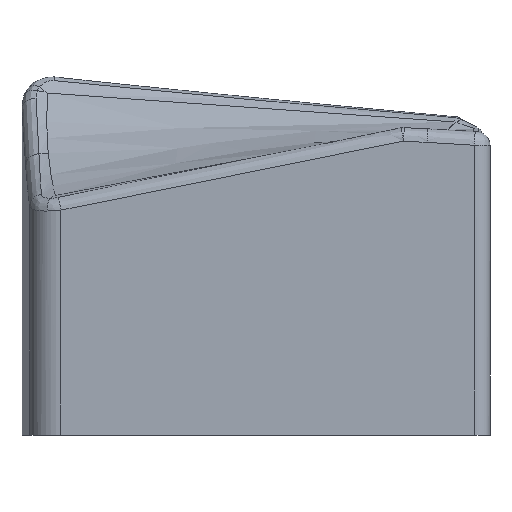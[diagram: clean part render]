
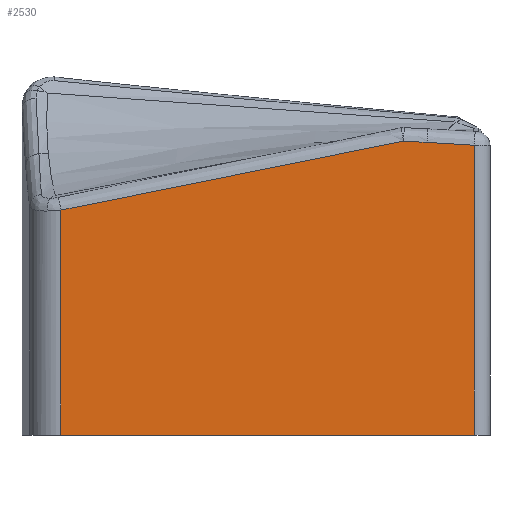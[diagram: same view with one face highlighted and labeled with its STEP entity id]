
A CAD part, front view. The second image highlights one B-rep face of the part: STEP entity #2530.
In plain terms, the highlighted planar face has unit normal (0, -1, 0).
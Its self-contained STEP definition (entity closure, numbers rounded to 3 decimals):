
#2411=AXIS2_PLACEMENT_3D('Plane Axis2P3D',#2408,#2409,#2410) ;
#1056=CARTESIAN_POINT('Vertex',(-18.348,-23.,-80.)) ;
#1059=CARTESIAN_POINT('Line Origine',(-70.981,-23.,-80.)) ;
#1063=CARTESIAN_POINT('Vertex',(-123.614,-23.,-80.)) ;
#1971=CARTESIAN_POINT('Line Origine',(-123.614,-23.,-26.5)) ;
#1975=CARTESIAN_POINT('Vertex',(-123.614,-23.,-22.698)) ;
#2024=CARTESIAN_POINT('Line Origine',(-18.348,-23.,-26.5)) ;
#2028=CARTESIAN_POINT('Vertex',(-18.348,-23.,-6.173)) ;
#2408=CARTESIAN_POINT('Axis2P3D Location',(-18.348,-23.,0.)) ;
#2414=CARTESIAN_POINT('Control Point',(-18.348,-23.,-6.173)) ;
#2415=CARTESIAN_POINT('Control Point',(-18.803,-23.,-6.145)) ;
#2416=CARTESIAN_POINT('Control Point',(-19.258,-23.,-6.117)) ;
#2417=CARTESIAN_POINT('Control Point',(-19.669,-23.,-6.093)) ;
#2418=CARTESIAN_POINT('Control Point',(-20.57,-23.,-6.038)) ;
#2419=CARTESIAN_POINT('Control Point',(-21.469,-23.,-5.984)) ;
#2420=CARTESIAN_POINT('Control Point',(-21.914,-23.,-5.957)) ;
#2421=CARTESIAN_POINT('Control Point',(-22.815,-23.,-5.903)) ;
#2422=CARTESIAN_POINT('Control Point',(-23.715,-23.,-5.85)) ;
#2423=CARTESIAN_POINT('Control Point',(-24.101,-23.,-5.827)) ;
#2424=CARTESIAN_POINT('Control Point',(-25.446,-23.,-5.746)) ;
#2425=CARTESIAN_POINT('Control Point',(-26.794,-23.,-5.667)) ;
#2426=CARTESIAN_POINT('Control Point',(-27.681,-23.,-5.614)) ;
#2427=CARTESIAN_POINT('Control Point',(-28.763,-23.,-5.55)) ;
#2428=CARTESIAN_POINT('Control Point',(-29.846,-23.,-5.486)) ;
#2429=CARTESIAN_POINT('Control Point',(-30.031,-23.,-5.475)) ;
#2430=CARTESIAN_POINT('Control Point',(-30.207,-23.,-5.464)) ;
#2431=CARTESIAN_POINT('Control Point',(-30.379,-23.,-5.454)) ;
#2432=CARTESIAN_POINT('Vertex',(-30.379,-23.,-5.454)) ;
#2436=CARTESIAN_POINT('Control Point',(-30.379,-23.,-5.454)) ;
#2437=CARTESIAN_POINT('Control Point',(-30.887,-23.,-5.424)) ;
#2438=CARTESIAN_POINT('Control Point',(-31.397,-23.,-5.394)) ;
#2439=CARTESIAN_POINT('Control Point',(-31.906,-23.,-5.363)) ;
#2440=CARTESIAN_POINT('Control Point',(-32.766,-23.,-5.312)) ;
#2441=CARTESIAN_POINT('Control Point',(-33.626,-23.,-5.26)) ;
#2442=CARTESIAN_POINT('Control Point',(-33.904,-23.,-5.244)) ;
#2443=CARTESIAN_POINT('Control Point',(-34.603,-23.,-5.203)) ;
#2444=CARTESIAN_POINT('Control Point',(-35.3,-23.,-5.162)) ;
#2445=CARTESIAN_POINT('Control Point',(-35.643,-23.,-5.143)) ;
#2446=CARTESIAN_POINT('Control Point',(-35.987,-23.,-5.124)) ;
#2447=CARTESIAN_POINT('Control Point',(-36.33,-23.,-5.105)) ;
#2448=CARTESIAN_POINT('Vertex',(-36.33,-23.,-5.105)) ;
#2452=CARTESIAN_POINT('Control Point',(-123.614,-23.,-22.698)) ;
#2453=CARTESIAN_POINT('Control Point',(-123.381,-23.,-22.652)) ;
#2454=CARTESIAN_POINT('Control Point',(-123.152,-23.,-22.606)) ;
#2455=CARTESIAN_POINT('Control Point',(-122.929,-23.,-22.563)) ;
#2456=CARTESIAN_POINT('Control Point',(-122.292,-23.,-22.437)) ;
#2457=CARTESIAN_POINT('Control Point',(-121.72,-23.,-22.324)) ;
#2458=CARTESIAN_POINT('Control Point',(-121.389,-23.,-22.259)) ;
#2459=CARTESIAN_POINT('Control Point',(-120.857,-23.,-22.154)) ;
#2460=CARTESIAN_POINT('Control Point',(-120.286,-23.,-22.041)) ;
#2461=CARTESIAN_POINT('Control Point',(-120.074,-23.,-21.999)) ;
#2462=CARTESIAN_POINT('Control Point',(-119.678,-23.,-21.921)) ;
#2463=CARTESIAN_POINT('Control Point',(-119.253,-23.,-21.837)) ;
#2464=CARTESIAN_POINT('Control Point',(-119.06,-23.,-21.799)) ;
#2465=CARTESIAN_POINT('Control Point',(-118.66,-23.,-21.719)) ;
#2466=CARTESIAN_POINT('Control Point',(-118.246,-23.,-21.638)) ;
#2467=CARTESIAN_POINT('Control Point',(-118.065,-23.,-21.602)) ;
#2468=CARTESIAN_POINT('Control Point',(-116.6,-23.,-21.312)) ;
#2469=CARTESIAN_POINT('Control Point',(-115.145,-23.,-21.024)) ;
#2470=CARTESIAN_POINT('Control Point',(-113.906,-23.,-20.778)) ;
#2471=CARTESIAN_POINT('Control Point',(-109.066,-23.,-19.818)) ;
#2472=CARTESIAN_POINT('Control Point',(-104.226,-23.,-18.854)) ;
#2473=CARTESIAN_POINT('Control Point',(-100.518,-23.,-18.114)) ;
#2474=CARTESIAN_POINT('Control Point',(-95.974,-23.,-17.204)) ;
#2475=CARTESIAN_POINT('Control Point',(-91.481,-23.,-16.303)) ;
#2476=CARTESIAN_POINT('Control Point',(-90.748,-23.,-16.156)) ;
#2477=CARTESIAN_POINT('Control Point',(-87.359,-23.,-15.475)) ;
#2478=CARTESIAN_POINT('Control Point',(-83.997,-23.,-14.798)) ;
#2479=CARTESIAN_POINT('Control Point',(-81.485,-23.,-14.292)) ;
#2480=CARTESIAN_POINT('Control Point',(-78.135,-23.,-13.616)) ;
#2481=CARTESIAN_POINT('Control Point',(-74.793,-23.,-12.941)) ;
#2482=CARTESIAN_POINT('Control Point',(-73.777,-23.,-12.735)) ;
#2483=CARTESIAN_POINT('Control Point',(-72.132,-23.,-12.403)) ;
#2484=CARTESIAN_POINT('Control Point',(-70.492,-23.,-12.071)) ;
#2485=CARTESIAN_POINT('Control Point',(-69.651,-23.,-11.9)) ;
#2486=CARTESIAN_POINT('Control Point',(-68.312,-23.,-11.629)) ;
#2487=CARTESIAN_POINT('Control Point',(-66.971,-23.,-11.357)) ;
#2488=CARTESIAN_POINT('Control Point',(-66.474,-23.,-11.256)) ;
#2489=CARTESIAN_POINT('Control Point',(-65.924,-23.,-11.145)) ;
#2490=CARTESIAN_POINT('Control Point',(-65.374,-23.,-11.033)) ;
#2491=CARTESIAN_POINT('Control Point',(-65.339,-23.,-11.026)) ;
#2492=CARTESIAN_POINT('Control Point',(-65.224,-23.,-11.003)) ;
#2493=CARTESIAN_POINT('Control Point',(-65.096,-23.,-10.977)) ;
#2494=CARTESIAN_POINT('Control Point',(-65.032,-23.,-10.964)) ;
#2495=CARTESIAN_POINT('Control Point',(-64.782,-23.,-10.913)) ;
#2496=CARTESIAN_POINT('Control Point',(-64.52,-23.,-10.86)) ;
#2497=CARTESIAN_POINT('Control Point',(-64.351,-23.,-10.826)) ;
#2498=CARTESIAN_POINT('Control Point',(-64.023,-23.,-10.759)) ;
#2499=CARTESIAN_POINT('Control Point',(-63.702,-23.,-10.694)) ;
#2500=CARTESIAN_POINT('Control Point',(-63.535,-23.,-10.66)) ;
#2501=CARTESIAN_POINT('Control Point',(-63.396,-23.,-10.632)) ;
#2502=CARTESIAN_POINT('Control Point',(-63.276,-23.,-10.607)) ;
#2503=CARTESIAN_POINT('Control Point',(-63.258,-23.,-10.604)) ;
#2504=CARTESIAN_POINT('Control Point',(-63.067,-23.,-10.565)) ;
#2505=CARTESIAN_POINT('Control Point',(-62.877,-23.,-10.526)) ;
#2506=CARTESIAN_POINT('Control Point',(-62.703,-23.,-10.491)) ;
#2507=CARTESIAN_POINT('Control Point',(-62.315,-23.,-10.412)) ;
#2508=CARTESIAN_POINT('Control Point',(-61.927,-23.,-10.333)) ;
#2509=CARTESIAN_POINT('Control Point',(-61.666,-23.,-10.28)) ;
#2510=CARTESIAN_POINT('Control Point',(-59.289,-23.,-9.797)) ;
#2511=CARTESIAN_POINT('Control Point',(-56.926,-23.,-9.316)) ;
#2512=CARTESIAN_POINT('Control Point',(-54.762,-23.,-8.875)) ;
#2513=CARTESIAN_POINT('Control Point',(-52.021,-23.,-8.317)) ;
#2514=CARTESIAN_POINT('Control Point',(-49.299,-23.,-7.761)) ;
#2515=CARTESIAN_POINT('Control Point',(-48.711,-23.,-7.641)) ;
#2516=CARTESIAN_POINT('Control Point',(-45.911,-23.,-7.069)) ;
#2517=CARTESIAN_POINT('Control Point',(-43.117,-23.,-6.497)) ;
#2518=CARTESIAN_POINT('Control Point',(-40.843,-23.,-6.031)) ;
#2519=CARTESIAN_POINT('Control Point',(-38.58,-23.,-5.567)) ;
#2520=CARTESIAN_POINT('Control Point',(-36.33,-23.,-5.105)) ;
#1060=DIRECTION('Vector Direction',(-1.,0.,0.)) ;
#1972=DIRECTION('Vector Direction',(0.,0.,1.)) ;
#2025=DIRECTION('Vector Direction',(0.,0.,1.)) ;
#2409=DIRECTION('Axis2P3D Direction',(0.,1.,-0.)) ;
#2410=DIRECTION('Axis2P3D XDirection',(-1.,0.,0.)) ;
#1061=VECTOR('Line Direction',#1060,1.) ;
#1973=VECTOR('Line Direction',#1972,1.) ;
#2026=VECTOR('Line Direction',#2025,1.) ;
#2523=ORIENTED_EDGE('',*,*,#2434,.T.) ;
#2524=ORIENTED_EDGE('',*,*,#2450,.T.) ;
#2525=ORIENTED_EDGE('',*,*,#2521,.T.) ;
#2526=ORIENTED_EDGE('',*,*,#1977,.F.) ;
#2527=ORIENTED_EDGE('',*,*,#1065,.T.) ;
#2528=ORIENTED_EDGE('',*,*,#2030,.T.) ;
#2530=ADVANCED_FACE('Body.5',(#2529),#2412,.F.) ;
#2413=B_SPLINE_CURVE_WITH_KNOTS('',5,(#2414,#2415,#2416,#2417,#2418,#2419,#2420,#2421,#2422,#2423,#2424,#2425,#2426,#2427,#2428,#2429,#2430,#2431),.UNSPECIFIED.,.F.,.U.,(6,3,3,3,3,6),(32.444,35.938,39.362,42.886,49.722,51.254),.UNSPECIFIED.) ;
#2435=B_SPLINE_CURVE_WITH_KNOTS('',5,(#2436,#2437,#2438,#2439,#2440,#2441,#2442,#2443,#2444,#2445,#2446,#2447),.UNSPECIFIED.,.F.,.U.,(6,3,3,6),(50.75,54.668,57.395,60.05),.UNSPECIFIED.) ;
#2451=B_SPLINE_CURVE_WITH_KNOTS('',5,(#2452,#2453,#2454,#2455,#2456,#2457,#2458,#2459,#2460,#2461,#2462,#2463,#2464,#2465,#2466,#2467,#2468,#2469,#2470,#2471,#2472,#2473,#2474,#2475,#2476,#2477,#2478,#2479,#2480,#2481,#2482,#2483,#2484,#2485,#2486,#2487,#2488,#2489,#2490,#2491,#2492,#2493,#2494,#2495,#2496,#2497,#2498,#2499,#2500,#2501,#2502,#2503,#2504,#2505,#2506,#2507,#2508,#2509,#2510,#2511,#2512,#2513,#2514,#2515,#2516,#2517,#2518,#2519,#2520),.UNSPECIFIED.,.F.,.U.,(6,3,3,3,3,3,3,3,3,3,3,3,3,3,3,3,3,3,3,3,3,3,6),(30.769,32.497,35.899,37.783,39.281,40.824,49.894,76.302,82.606,101.154,107.054,113.262,116.918,117.313,117.681,118.742,119.472,119.601,120.88,122.468,138.46,142.609,159.253),.UNSPECIFIED.) ;
#1065=EDGE_CURVE('',#1064,#1057,#1062,.F.) ;
#1977=EDGE_CURVE('',#1064,#1976,#1974,.T.) ;
#2030=EDGE_CURVE('',#1057,#2029,#2027,.T.) ;
#2434=EDGE_CURVE('',#2029,#2433,#2413,.T.) ;
#2450=EDGE_CURVE('',#2433,#2449,#2435,.T.) ;
#2521=EDGE_CURVE('',#2449,#1976,#2451,.F.) ;
#2522=EDGE_LOOP('',(#2523,#2524,#2525,#2526,#2527,#2528)) ;
#2529=FACE_OUTER_BOUND('',#2522,.T.) ;
#1062=LINE('Line',#1059,#1061) ;
#1974=LINE('Line',#1971,#1973) ;
#2027=LINE('Line',#2024,#2026) ;
#2412=PLANE('',#2411) ;
#1057=VERTEX_POINT('',#1056) ;
#1064=VERTEX_POINT('',#1063) ;
#1976=VERTEX_POINT('',#1975) ;
#2029=VERTEX_POINT('',#2028) ;
#2433=VERTEX_POINT('',#2432) ;
#2449=VERTEX_POINT('',#2448) ;
